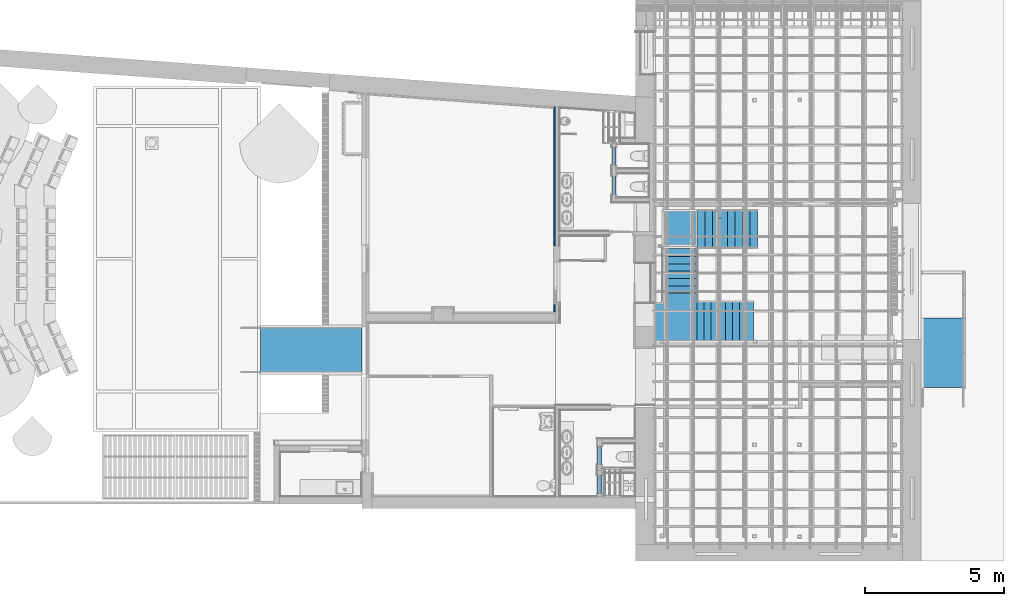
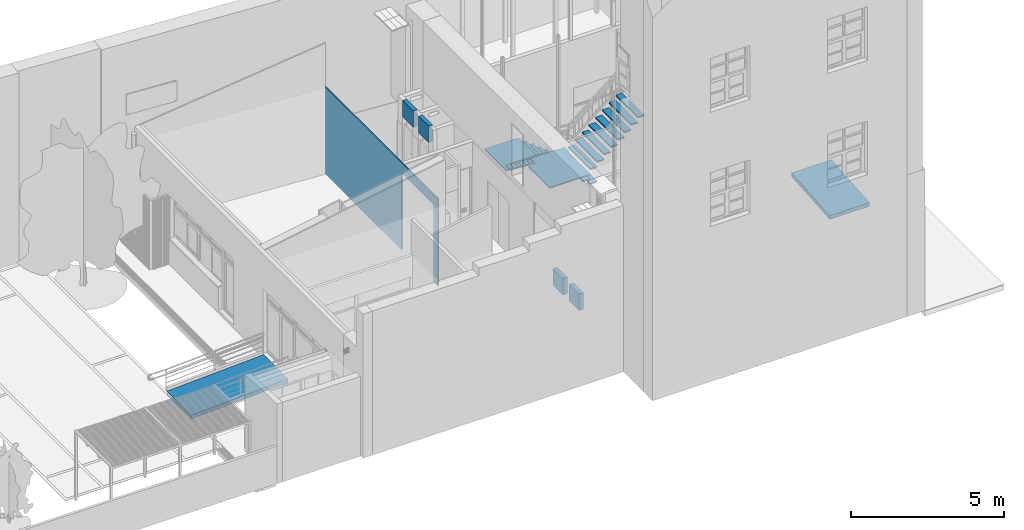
# One storey, part 44 of 75: 5 walls, 2 ramp flights, 1 stair flight, 3 elements without a shape of their own.
"""IFC2X3 building model written with IfcOpenShell, lengths in metres."""

from ifc_helpers import new_model, entity, si_unit, converted_unit, derived_unit, direction, frame, frame_2d, origin, origin_2d_with_axis, place, context, subcontext, project, spatial, polyline, rectangle, outline, extrude, faceted_brep, material, layer, layer_set, layer_usage, type_object, element, aggregate, save


model = new_model("IFC2X3")

# Units and contexts
model_context = context("Model", 3, precision=1e-05, world=origin(), true_north=direction((6.12303176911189e-17, 1.0)))
body_context = subcontext(model_context, "Body", "Model", "MODEL_VIEW")
ifc_project = project(units=[si_unit("LENGTHUNIT", "METRE"), si_unit("AREAUNIT", "SQUARE_METRE"), si_unit("VOLUMEUNIT", "CUBIC_METRE"), converted_unit("PLANEANGLEUNIT", "DEGREE", entity("IfcRatioMeasure", 0.0174532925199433), si_unit("PLANEANGLEUNIT", "RADIAN"), dimensions=[0, 0, 0, 0, 0, 0, 0]), si_unit("MASSUNIT", "GRAM", prefix="KILO"), derived_unit("MASSDENSITYUNIT", [(si_unit("MASSUNIT", "GRAM", prefix="KILO"), 1), (si_unit("LENGTHUNIT", "METRE"), -3)]), derived_unit("MOMENTOFINERTIAUNIT", [(si_unit("LENGTHUNIT", "METRE"), 4)]), si_unit("TIMEUNIT", "SECOND"), si_unit("FREQUENCYUNIT", "HERTZ"), si_unit("THERMODYNAMICTEMPERATUREUNIT", "DEGREE_CELSIUS"), derived_unit("THERMALTRANSMITTANCEUNIT", [(si_unit("MASSUNIT", "GRAM", prefix="KILO"), 1), (si_unit("THERMODYNAMICTEMPERATUREUNIT", "KELVIN"), -1), (si_unit("TIMEUNIT", "SECOND"), -3)]), derived_unit("VOLUMETRICFLOWRATEUNIT", [(si_unit("LENGTHUNIT", "METRE"), 3), (si_unit("TIMEUNIT", "SECOND"), -1)]), si_unit("ELECTRICCURRENTUNIT", "AMPERE"), si_unit("ELECTRICVOLTAGEUNIT", "VOLT"), si_unit("POWERUNIT", "WATT"), si_unit("FORCEUNIT", "NEWTON", prefix="KILO"), si_unit("ILLUMINANCEUNIT", "LUX"), si_unit("LUMINOUSFLUXUNIT", "LUMEN"), si_unit("LUMINOUSINTENSITYUNIT", "CANDELA"), derived_unit("USERDEFINED", [(si_unit("MASSUNIT", "GRAM", prefix="KILO"), -1), (si_unit("LENGTHUNIT", "METRE"), -2), (si_unit("TIMEUNIT", "SECOND"), 3), (si_unit("LUMINOUSFLUXUNIT", "LUMEN"), 1)]), derived_unit("LINEARVELOCITYUNIT", [(si_unit("LENGTHUNIT", "METRE"), 1), (si_unit("TIMEUNIT", "SECOND"), -1)]), si_unit("PRESSUREUNIT", "PASCAL"), derived_unit("USERDEFINED", [(si_unit("LENGTHUNIT", "METRE"), -2), (si_unit("MASSUNIT", "GRAM", prefix="KILO"), 1), (si_unit("TIMEUNIT", "SECOND"), -2)]), derived_unit("LINEARFORCEUNIT", [(si_unit("MASSUNIT", "GRAM", prefix="KILO"), 1), (si_unit("LENGTHUNIT", "METRE"), 1), (si_unit("TIMEUNIT", "SECOND"), -2), (si_unit("LENGTHUNIT", "METRE"), -1)]), derived_unit("PLANARFORCEUNIT", [(si_unit("MASSUNIT", "GRAM", prefix="KILO"), 1), (si_unit("LENGTHUNIT", "METRE"), 1), (si_unit("TIMEUNIT", "SECOND"), -2), (si_unit("LENGTHUNIT", "METRE"), -2)])], contexts=[model_context])

# Site, building, storey
site_placement = place(None, origin())
site = spatial("IfcSite", under=ifc_project, at=site_placement, Name="Superficie", CompositionType="ELEMENT")
building_placement = place(site_placement, origin())
building = spatial("IfcBuilding", under=site, at=building_placement, Name="Telegestiones", CompositionType="ELEMENT")
storey_placement = place(building_placement, origin())
storey = spatial("IfcBuildingStorey", under=building, at=storey_placement, Name="Nivel 0_NPT", CompositionType="ELEMENT", Elevation=0.0)

# Walls
ifc_material_1 = material(Name="Muro por defecto")
ifc_layer_1 = layer(ifc_material_1, 0.15)
ifc_layer_set_1 = layer_set([ifc_layer_1], Name="Muro básico:ARQ-MU-IN-15-Gen")
ifc_layer_usage_1 = layer_usage(ifc_layer_set_1, "AXIS2", "NEGATIVE", 0.075)
wall_type_1 = type_object("IfcWallType", Name="Muro básico:ARQ-MU-IN-15-Gen", PredefinedType="STANDARD", material=ifc_layer_set_1)
wall_1_placement = place(storey_placement, frame((4.58995224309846, 7.78324357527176, 2.4), z_axis=(0.0, 0.0, 1.0), x_axis=(0.0, 1.0, 0.0)))
element("IfcWallStandardCase", 1, at=wall_1_placement, inside=storey, type_object=wall_type_1, material=ifc_layer_usage_1, Name="Muro básico:ARQ-MU-IN-15-Gen", ObjectType="Muro básico:ARQ-MU-IN-15-Gen", context=body_context, shape_type="SweptSolid", body=[
    extrude(rectangle(XDim=0.700363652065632, YDim=0.149999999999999, at=frame_2d((0.350181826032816, 4.16333634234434e-17), x_axis=(-1.0, 0.0))), origin(), (0.0, 0.0, 1.0), 0.66),
])
ifc_layer_usage_2 = layer_usage(ifc_layer_set_1, "AXIS2", "NEGATIVE", 0.075)
wall_2_placement = place(storey_placement, frame((4.58995224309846, 6.78360722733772, 2.4), z_axis=(0.0, 0.0, 1.0), x_axis=(0.0, 1.0, 0.0)))
element("IfcWallStandardCase", 2, at=wall_2_placement, inside=storey, type_object=wall_type_1, material=ifc_layer_usage_2, Name="Muro básico:ARQ-MU-IN-15-Gen", ObjectType="Muro básico:ARQ-MU-IN-15-Gen", context=body_context, shape_type="SweptSolid", body=[
    extrude(rectangle(XDim=0.659636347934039, YDim=0.149999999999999, at=frame_2d((0.32981817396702, 6.93889390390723e-18), x_axis=(-1.0, 0.0))), origin(), (0.0, 0.0, 1.0), 0.66),
])
ifc_layer_2 = layer(ifc_material_1, 0.17)
ifc_layer_set_2 = layer_set([ifc_layer_2], Name="Muro básico:ARQ-MU-IN-17-Gen")
ifc_layer_usage_3 = layer_usage(ifc_layer_set_2, "AXIS2", "POSITIVE", -0.085)
wall_type_2 = type_object("IfcWallType", Name="Muro básico:ARQ-MU-IN-17-Gen", PredefinedType="STANDARD", material=ifc_layer_set_2)
wall_3_placement = place(storey_placement, frame((4.06981262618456, -3.32139277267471, 2.4), z_axis=(0.0, 0.0, 1.0), x_axis=(0.0, -1.0, 0.0)))
element("IfcWallStandardCase", 3, at=wall_3_placement, inside=storey, type_object=wall_type_2, material=ifc_layer_usage_3, Name="Muro básico:ARQ-MU-IN-17-Gen", ObjectType="Muro básico:ARQ-MU-IN-17-Gen", context=body_context, shape_type="SweptSolid", body=[
    extrude(rectangle(XDim=0.649972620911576, YDim=0.17, at=frame_2d((0.324986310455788, 0.0), x_axis=(-1.0, 0.0))), origin(), (0.0, 0.0, 1.0), 0.66),
])
ifc_layer_usage_4 = layer_usage(ifc_layer_set_2, "AXIS2", "NEGATIVE", 0.085)
wall_4_placement = place(storey_placement, frame((4.05981262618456, -2.93139277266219, 2.4), z_axis=(0.0, 0.0, 1.0), x_axis=(0.0, 1.0, 0.0)))
element("IfcWallStandardCase", 4, at=wall_4_placement, inside=storey, type_object=wall_type_2, material=ifc_layer_usage_4, Name="Muro básico:ARQ-MU-IN-17-Gen", ObjectType="Muro básico:ARQ-MU-IN-17-Gen", context=body_context, shape_type="SweptSolid", body=[
    extrude(rectangle(XDim=0.650000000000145, YDim=0.17, at=frame_2d((0.325000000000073, 0.0), x_axis=(-1.0, 0.0))), origin(), (0.0, 0.0, 1.0), 0.66),
])
ifc_material_2 = material(Name="Placa yeso entera")
ifc_layer_3 = layer(ifc_material_2, 0.012)
ifc_material_3 = material(Name="Estructura de Hierro Galvanizado")
ifc_layer_4 = layer(ifc_material_3, 0.038)
ifc_layer_set_3 = layer_set([ifc_layer_3, ifc_layer_4], Name="Muro básico:ARQ-RE-IN-5-Ye-M2")
wall_type_3 = type_object("IfcWallType", Name="Muro básico:ARQ-RE-IN-5-Ye-M2", PredefinedType="STANDARD", material=ifc_layer_set_3)
wall_5_placement = place(storey_placement, frame((2.44240672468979, 2.55458449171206, -0.0199999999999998), z_axis=(0.0, 0.0, 1.0), x_axis=(0.0, 1.0, 0.0)))
element("IfcWall", 5, at=wall_5_placement, inside=storey, type_object=wall_type_3, Name="Muro básico:ARQ-RE-IN-5-Ye-M2", ObjectType="Muro básico:ARQ-RE-IN-5-Ye-M2", context=body_context, shape_type="Brep", body=[
    faceted_brep([(0.0, -0.0249999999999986, 0.0), (0.277951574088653, -0.0249999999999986, 0.0), (0.277951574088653, -0.0249999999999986, 3.07999999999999), (2.37999999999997, -0.0249999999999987, 3.08), (2.37999999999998, -0.0249999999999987, 0.0), (7.37996262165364, -0.0249999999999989, 0.0), (7.37996262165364, -0.0249999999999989, 3.47), (0.0, -0.0249999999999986, 3.47), (0.277951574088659, 0.0250000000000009, 0.0), (0.0, 0.0250000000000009, 0.0), (0.0, 0.0250000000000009, 3.47), (7.38362288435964, 0.025000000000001, 3.47), (7.38362288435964, 0.025000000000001, 0.0), (7.33348908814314, 0.0250000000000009, 0.0), (2.37999999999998, 0.025000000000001, 0.0), (2.37999999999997, 0.025000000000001, 3.08), (0.327951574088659, 0.025000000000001, 3.07999999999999), (0.277951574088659, 0.0250000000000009, 3.07999999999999)], [[[0, 1, 2, 3, 4, 5, 6, 7]], [[8, 9, 10, 11, 12, 13, 14, 15, 16, 17]], [[6, 5, 12, 11]], [[0, 7, 10, 9]], [[1, 0, 9, 8]], [[7, 6, 11, 10]], [[3, 2, 17, 16, 15]], [[5, 4, 14, 13, 12]], [[2, 1, 8, 17]], [[3, 15, 14, 4]]]),
])

# Stair, stair flight
stair_placement = place(storey_placement, origin())
stair = element("IfcStair", 6, at=stair_placement, inside=storey, Name="Escalera ensamblada:Escalera", ObjectType="Escalera ensamblada:ARQ-ESC-IN-sin vigas", ShapeType="NOTDEFINED")
ifc_material_4 = material(Name="Caoba")
stair_flight_type = type_object("IfcStairFlightType", Name="Tramo no monolítico:Sin contrahuellas", PredefinedType="NOTDEFINED")
stair_flight_placement = place(stair_placement, origin())
stair_flight = element("IfcStairFlight", 7, at=stair_flight_placement, type_object=stair_flight_type, material=ifc_material_4, Name="Escalera ensamblada:Escalera:1269989 Run 1", ObjectType="Tramo no monolítico:Sin contrahuellas", NumberOfRiser=25, NumberOfTreads=24, RiserHeight=0.674540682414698, TreadLength=0.853018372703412, context=body_context, shape_type="SweptSolid", body=[
    extrude(rectangle(XDim=0.270000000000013, YDim=1.4000178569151, at=frame_2d((-5.55111512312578e-16, 2.77555756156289e-16), x_axis=(1.0, 0.0))), frame((9.62328977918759, 5.5446161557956, 0.1556)), (0.0, 0.0, 1.0), 0.05),
    extrude(rectangle(XDim=0.269999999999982, YDim=1.4000178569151, at=frame_2d((0.0, 2.77555756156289e-16), x_axis=(1.0, 0.0))), frame((9.35328977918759, 5.5446161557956, 0.3612)), (0.0, 0.0, 1.0), 0.05),
    extrude(rectangle(XDim=0.269999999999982, YDim=1.4000178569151, at=frame_2d((0.0, 2.77555756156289e-16), x_axis=(1.0, 0.0))), frame((9.0832897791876, 5.5446161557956, 0.5668)), (0.0, 0.0, 1.0), 0.05),
    extrude(rectangle(XDim=0.269999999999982, YDim=1.4000178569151, at=frame_2d((0.0, 2.77555756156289e-16), x_axis=(1.0, 0.0))), frame((8.8132897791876, 5.5446161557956, 0.7724)), (0.0, 0.0, 1.0), 0.05),
    extrude(rectangle(XDim=0.269999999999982, YDim=1.4000178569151, at=frame_2d((0.0, 2.77555756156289e-16), x_axis=(1.0, 0.0))), frame((8.5432897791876, 5.5446161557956, 0.978)), (0.0, 0.0, 1.0), 0.05),
    extrude(rectangle(XDim=0.269999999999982, YDim=1.4000178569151, at=frame_2d((0.0, 2.77555756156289e-16), x_axis=(1.0, 0.0))), frame((8.27328977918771, 5.5446161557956, 1.1836)), (0.0, 0.0, 1.0), 0.05),
    extrude(rectangle(XDim=0.269999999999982, YDim=1.4000178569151, at=frame_2d((0.0, 2.77555756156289e-16), x_axis=(1.0, 0.0))), frame((8.00328977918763, 5.5446161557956, 1.3892)), (0.0, 0.0, 1.0), 0.05),
    extrude(rectangle(XDim=0.269214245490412, YDim=1.4000178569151, at=frame_2d((0.0, 2.77555756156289e-16), x_axis=(1.0, 0.0))), frame((7.73368265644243, 5.5446161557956, 1.5948)), (0.0, 0.0, 1.0), 0.05),
    extrude(rectangle(XDim=1.4000178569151, YDim=1.2807857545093, at=frame_2d((2.77555756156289e-16, 0.0), x_axis=(1.0, 0.0))), frame((6.95868265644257, 5.5446161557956, 1.8004), z_axis=(0.0, 0.0, 1.0), x_axis=(0.0, 1.0, 0.0)), (0.0, 0.0, 1.0), 0.05),
    extrude(rectangle(XDim=0.255593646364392, YDim=1.45540747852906, at=frame_2d((-0.0195089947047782, 0.145540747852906), x_axis=(1.0, 0.0))), frame((7.67711151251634, 2.36958709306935, 3.4452), z_axis=(0.0, 0.0, 1.0), x_axis=(-1.0, 0.0, 0.0)), (0.0, 0.0, 1.0), 0.05),
    extrude(rectangle(XDim=0.263428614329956, YDim=1.45540747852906, at=frame_2d((-5.41233724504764e-16, 0.0), x_axis=(1.0, 0.0))), frame((7.95613163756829, 2.22404634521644, 3.6508), z_axis=(0.0, 0.0, 1.0), x_axis=(-1.0, 0.0, 0.0)), (0.0, 0.0, 1.0), 0.05),
    extrude(outline(polyline([(0.30385186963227, -0.718955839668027), (0.593851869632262, -0.718955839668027), (0.593851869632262, 0.561829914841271), (0.253851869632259, 0.561829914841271), (0.253851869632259, 0.845829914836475), (-1.15155560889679, 0.845829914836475), (-1.15155560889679, -0.688703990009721), (0.30385186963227, -0.688703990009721), (0.30385186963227, -0.718955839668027)])), frame((6.8801196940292, 2.6478982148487, 3.2396), z_axis=(0.0, 0.0, 1.0), x_axis=(0.0, 1.0, 0.0)), (0.0, 0.0, 1.0), 0.05),
    extrude(rectangle(XDim=0.24099999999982, YDim=1.45540747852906, at=origin_2d_with_axis()), frame((9.48178977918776, 2.22404634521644, 4.8844), z_axis=(0.0, 0.0, 1.0), x_axis=(-1.0, 0.0, 0.0)), (0.0, 0.0, 1.0), 0.0499999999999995),
    extrude(rectangle(XDim=0.28428571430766, YDim=1.2807857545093, at=origin_2d_with_axis()), frame((6.95868265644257, 4.70246437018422, 2.006), z_axis=(0.0, 0.0, 1.0), x_axis=(0.0, 1.0, 0.0)), (0.0, 0.0, 1.0), 0.05),
    extrude(rectangle(XDim=0.267142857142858, YDim=1.2807857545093, at=origin_2d_with_axis()), frame((6.95868265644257, 4.42675008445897, 2.2116), z_axis=(0.0, 0.0, 1.0), x_axis=(0.0, 1.0, 0.0)), (0.0, 0.0, 1.0), 0.05),
    extrude(rectangle(XDim=0.267142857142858, YDim=1.2807857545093, at=origin_2d_with_axis()), frame((6.95868265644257, 4.15960722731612, 2.4172), z_axis=(0.0, 0.0, 1.0), x_axis=(0.0, 1.0, 0.0)), (0.0, 0.0, 1.0), 0.05),
    extrude(rectangle(XDim=0.267142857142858, YDim=1.2807857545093, at=origin_2d_with_axis()), frame((6.95868265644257, 3.89246437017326, 2.6228), z_axis=(0.0, 0.0, 1.0), x_axis=(0.0, 1.0, 0.0)), (0.0, 0.0, 1.0), 0.05),
    extrude(rectangle(XDim=0.267142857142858, YDim=1.2807857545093, at=origin_2d_with_axis()), frame((6.95868265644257, 3.62532151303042, 2.8284), z_axis=(0.0, 0.0, 1.0), x_axis=(0.0, 1.0, 0.0)), (0.0, 0.0, 1.0), 0.05),
    extrude(rectangle(XDim=0.248862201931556, YDim=1.45540747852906, at=frame_2d((1.08246744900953e-15, 0.0), x_axis=(1.0, 0.0))), frame((8.21227704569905, 2.22404634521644, 3.8564), z_axis=(0.0, 0.0, 1.0), x_axis=(-1.0, 0.0, 0.0)), (0.0, 0.0, 1.0), 0.05),
    extrude(rectangle(XDim=0.256145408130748, YDim=1.45540747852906, at=frame_2d((-5.41233724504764e-16, 0.0), x_axis=(1.0, 0.0))), frame((8.4647808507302, 2.22404634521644, 4.062), z_axis=(0.0, 0.0, 1.0), x_axis=(-1.0, 0.0, 0.0)), (0.0, 0.0, 1.0), 0.05),
    extrude(rectangle(XDim=0.256145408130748, YDim=1.45540747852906, at=frame_2d((-5.41233724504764e-16, 0.0), x_axis=(1.0, 0.0))), frame((8.72092625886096, 2.22404634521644, 4.2676), z_axis=(0.0, 0.0, 1.0), x_axis=(-1.0, 0.0, 0.0)), (0.0, 0.0, 1.0), 0.05),
    extrude(rectangle(XDim=0.256145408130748, YDim=1.45540747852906, at=frame_2d((-5.41233724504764e-16, 0.0), x_axis=(1.0, 0.0))), frame((8.97707166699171, 2.22404634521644, 4.4732), z_axis=(0.0, 0.0, 1.0), x_axis=(-1.0, 0.0, 0.0)), (0.0, 0.0, 1.0), 0.05),
    extrude(rectangle(XDim=0.256145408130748, YDim=1.45540747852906, at=frame_2d((5.41233724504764e-16, 0.0), x_axis=(1.0, 0.0))), frame((9.23321707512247, 2.22404634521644, 4.6788), z_axis=(0.0, 0.0, 1.0), x_axis=(-1.0, 0.0, 0.0)), (0.0, 0.0, 1.0), 0.05),
    extrude(rectangle(XDim=0.249999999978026, YDim=1.2807857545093, at=origin_2d_with_axis()), frame((6.95868265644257, 3.36675008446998, 3.034), z_axis=(0.0, 0.0, 1.0), x_axis=(0.0, 1.0, 0.0)), (0.0, 0.0, 1.0), 0.05),
])
aggregate(stair, [stair_flight])

# Ramp, ramp flight
ramp_1_placement = place(storey_placement, origin())
ramp_1 = element("IfcRamp", 8, at=ramp_1_placement, inside=storey, Name="Rampa:Rampa 1", ObjectType="Rampa:Rampa 1", ShapeType="NOTDEFINED")
ifc_material_5 = material(Name="Hormigón, acabado con escobilla")
ramp_flight_1_placement = place(ramp_1_placement, origin())
ramp_flight_1 = element("IfcRampFlight", 9, at=ramp_flight_1_placement, material=ifc_material_5, Name="Rampa:Rampa 1:1", ObjectType="Rampa:Rampa 1", context=body_context, shape_type="SweptSolid", body=[
    extrude(outline(polyline([(-0.165090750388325, -1.82895307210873), (-0.0149092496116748, -1.82895307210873), (0.165090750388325, 1.82895307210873), (0.0149092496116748, 1.82895307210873), (-0.165090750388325, -1.82895307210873)])), frame((-6.31414044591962, 0.393607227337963, -0.165090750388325), z_axis=(0.0, 1.0, 0.0), x_axis=(0.0, 0.0, -1.0)), (0.0, 0.0, 1.0), 1.6),
])
aggregate(ramp_1, [ramp_flight_1])

ramp_2_placement = place(storey_placement, origin())
ramp_2 = element("IfcRamp", 10, at=ramp_2_placement, inside=storey, Name="Rampa:Rampa 1", ObjectType="Rampa:Rampa 1", ShapeType="NOTDEFINED")
ramp_flight_2_placement = place(ramp_2_placement, origin())
ramp_flight_2 = element("IfcRampFlight", 11, at=ramp_flight_2_placement, material=ifc_material_5, Name="Rampa:Rampa 1:1", ObjectType="Rampa:Rampa 1", context=body_context, shape_type="SweptSolid", body=[
    extrude(outline(polyline([(0.0247603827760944, -1.25), (0.175239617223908, -1.25), (-0.0247603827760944, 1.25), (-0.175239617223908, 1.25), (0.0247603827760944, -1.25)])), frame((15.6448126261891, 1.08613271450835, -0.175239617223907), z_axis=(1.0, 0.0, 0.0), x_axis=(0.0, 0.0, -1.0)), (0.0, 0.0, 1.0), 1.50948149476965),
])
aggregate(ramp_2, [ramp_flight_2])

save(model, "model.ifc")
